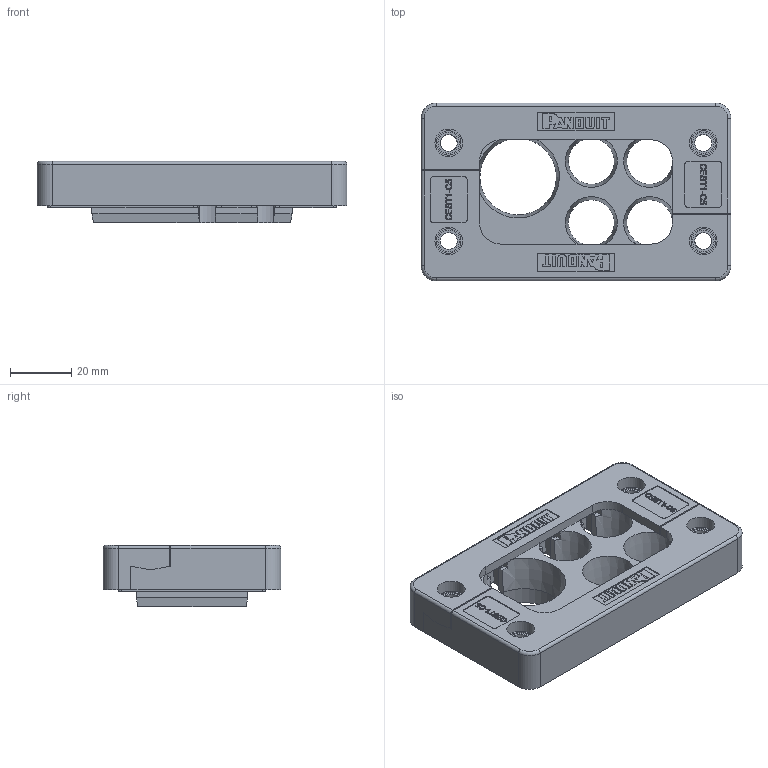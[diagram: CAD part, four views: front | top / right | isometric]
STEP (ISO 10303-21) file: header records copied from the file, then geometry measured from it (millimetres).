
FILE_DESCRIPTION(/* description */ (''),/* implementation_level */ '2;1');
FILE_NAME(/* name */ 'H:\SapWorkDir\Inventor\MP1\ConvertTempPath\87_11_121473_00_A_220620_KDL-C 10-5 ZSB.stp',/* time_stamp */ '2022-06-20T12:48:53+02:00',/* author */ ('BAUER'),/* organization */ (''),/* preprocessor_version */ 'ST-DEVELOPER v16.13',/* originating_system */ 'Autodesk Inventor 2018',/* authorisation */ '');
FILE_SCHEMA (('AUTOMOTIVE_DESIGN { 1 0 10303 214 3 1 1 }'));
Length unit declared in the file: millimetre
Products named in the file (3): 121473; KDB-10; 121422
Assembly tree (3 placements, depth 2):
  121473
    KDB-10
    121422  x2
Bounding box: 101 x 58 x 20 mm (x, y, z)
Volume: 61663.1 mm3; surface area: 33954.9 mm2
Topology: 3 solids, 3 shells, 944 faces, 2533 edges, 1665 vertices
Faces by surface type: plane 596, cylinder 158, bspline 156, torus 20, cone 9, sphere 5
Full cylindrical faces by diameter (mm): 5 x4, 5.5 x10, 6 x2, 7 x4, 8 x4, 9 x4
Entity records: 20672 total; most frequent: CARTESIAN_POINT 4965, ORIENTED_EDGE 3398, DIRECTION 2919, EDGE_CURVE 1699, LINE 1193, VECTOR 1193, VERTEX_POINT 1122, AXIS2_PLACEMENT_3D 863
